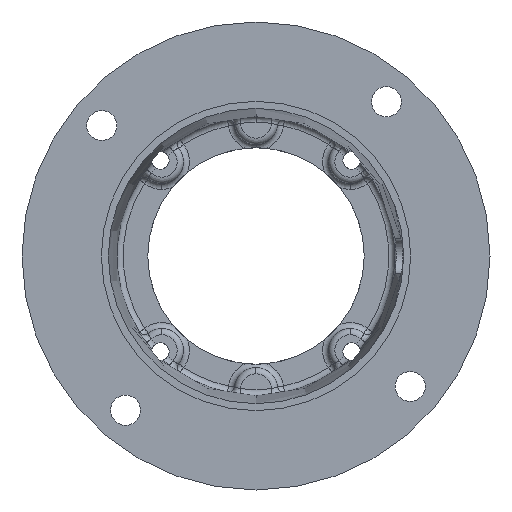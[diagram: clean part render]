
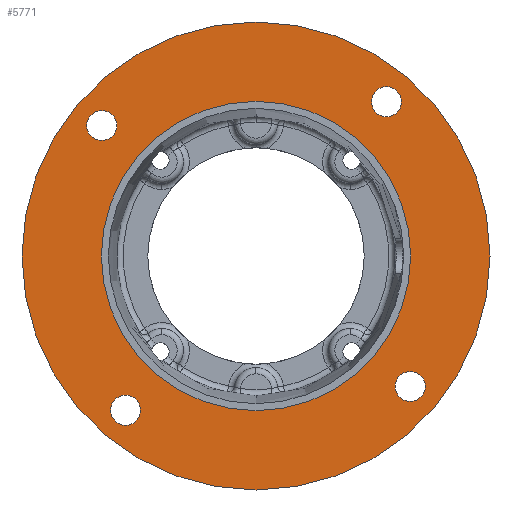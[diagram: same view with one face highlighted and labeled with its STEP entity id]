
A CAD part, front view. The second image highlights one B-rep face of the part: STEP entity #5771.
In plain terms, the highlighted planar face has unit normal (0, -1, 0).
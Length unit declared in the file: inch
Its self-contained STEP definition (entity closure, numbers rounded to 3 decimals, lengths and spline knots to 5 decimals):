
#14 = EDGE_LOOP ( 'NONE', ( #4089, #3231 ) ) ;
#47 = DIRECTION ( 'NONE',  ( 0., -1., 0. ) ) ;
#120 = DIRECTION ( 'NONE',  ( 0., -1., 0. ) ) ;
#131 = CARTESIAN_POINT ( 'NONE',  ( 0., 0.104, 3.405 ) ) ;
#134 = DIRECTION ( 'NONE',  ( 0., 0., -1. ) ) ;
#292 = ORIENTED_EDGE ( 'NONE', *, *, #896, .F. ) ;
#309 = CIRCLE ( 'NONE', #3925, 2.2505 ) ;
#483 = CARTESIAN_POINT ( 'NONE',  ( 0., 0.104, 0. ) ) ;
#503 = CARTESIAN_POINT ( 'NONE',  ( -2.24475, 0.104, 1.67986 ) ) ;
#580 = ORIENTED_EDGE ( 'NONE', *, *, #3121, .F. ) ;
#581 = VERTEX_POINT ( 'NONE', #5534 ) ;
#669 = EDGE_CURVE ( 'NONE', #820, #8010, #7409, .T. ) ;
#807 = CARTESIAN_POINT ( 'NONE',  ( 2.24475, 0.104, -1.89861 ) ) ;
#820 = VERTEX_POINT ( 'NONE', #1160 ) ;
#885 = AXIS2_PLACEMENT_3D ( 'NONE', #3784, #47, #4411 ) ;
#896 = EDGE_CURVE ( 'NONE', #4029, #7605, #5898, .T. ) ;
#904 = EDGE_LOOP ( 'NONE', ( #3573, #4079 ) ) ;
#924 = DIRECTION ( 'NONE',  ( 0., -1., 0. ) ) ;
#965 = DIRECTION ( 'NONE',  ( 0., -1., 0. ) ) ;
#1043 = FACE_BOUND ( 'NONE', #14, .T. ) ;
#1111 = DIRECTION ( 'NONE',  ( 0., 0., -1. ) ) ;
#1160 = CARTESIAN_POINT ( 'NONE',  ( 1.89861, 0.104, 2.026 ) ) ;
#1226 = CARTESIAN_POINT ( 'NONE',  ( 0., 0.104, 2.2505 ) ) ;
#1346 = CARTESIAN_POINT ( 'NONE',  ( -2.24475, 0.104, 1.89861 ) ) ;
#1378 = EDGE_LOOP ( 'NONE', ( #3052, #292 ) ) ;
#1427 = DIRECTION ( 'NONE',  ( 0., 0., -1. ) ) ;
#1503 = CARTESIAN_POINT ( 'NONE',  ( 1.89861, 0.104, 2.4635 ) ) ;
#1568 = DIRECTION ( 'NONE',  ( 0., -1., 0. ) ) ;
#1937 = EDGE_CURVE ( 'NONE', #8010, #820, #7156, .T. ) ;
#1973 = DIRECTION ( 'NONE',  ( 0., 0., -1. ) ) ;
#2256 = CARTESIAN_POINT ( 'NONE',  ( -2.24475, 0.104, 2.11736 ) ) ;
#2306 = CARTESIAN_POINT ( 'NONE',  ( 0., 0.104, 0. ) ) ;
#2434 = CIRCLE ( 'NONE', #4602, 0.21875 ) ;
#2475 = CARTESIAN_POINT ( 'NONE',  ( -1.89861, 0.104, -2.026 ) ) ;
#2671 = FACE_BOUND ( 'NONE', #3233, .T. ) ;
#2678 = CARTESIAN_POINT ( 'NONE',  ( 2.24475, 0.104, -1.89861 ) ) ;
#2747 = VERTEX_POINT ( 'NONE', #503 ) ;
#2770 = CARTESIAN_POINT ( 'NONE',  ( 0., 0.104, 0. ) ) ;
#2890 = CARTESIAN_POINT ( 'NONE',  ( 2.24475, 0.104, -2.11736 ) ) ;
#2952 = DIRECTION ( 'NONE',  ( 0., 0., -1. ) ) ;
#2983 = CARTESIAN_POINT ( 'NONE',  ( 0., 0.104, 0. ) ) ;
#3023 = EDGE_CURVE ( 'NONE', #581, #6712, #4610, .T. ) ;
#3052 = ORIENTED_EDGE ( 'NONE', *, *, #5882, .F. ) ;
#3121 = EDGE_CURVE ( 'NONE', #7922, #7731, #4422, .T. ) ;
#3198 = CARTESIAN_POINT ( 'NONE',  ( -1.89861, 0.104, -2.24475 ) ) ;
#3231 = ORIENTED_EDGE ( 'NONE', *, *, #1937, .F. ) ;
#3233 = EDGE_LOOP ( 'NONE', ( #6680, #7739 ) ) ;
#3320 = DIRECTION ( 'NONE',  ( 0., 0., -1. ) ) ;
#3440 = EDGE_CURVE ( 'NONE', #2747, #5058, #4698, .T. ) ;
#3518 = AXIS2_PLACEMENT_3D ( 'NONE', #3198, #7552, #3840 ) ;
#3573 = ORIENTED_EDGE ( 'NONE', *, *, #3904, .T. ) ;
#3602 = DIRECTION ( 'NONE',  ( 0., 0., -1. ) ) ;
#3607 = AXIS2_PLACEMENT_3D ( 'NONE', #2983, #7330, #3602 ) ;
#3701 = CARTESIAN_POINT ( 'NONE',  ( 0., 0.104, -3.405 ) ) ;
#3784 = CARTESIAN_POINT ( 'NONE',  ( 0., 0.104, 0. ) ) ;
#3840 = DIRECTION ( 'NONE',  ( 0., 0., -1. ) ) ;
#3857 = CARTESIAN_POINT ( 'NONE',  ( -1.89861, 0.104, -2.24475 ) ) ;
#3876 = DIRECTION ( 'NONE',  ( 0., -1., 0. ) ) ;
#3894 = CIRCLE ( 'NONE', #3518, 0.21875 ) ;
#3904 = EDGE_CURVE ( 'NONE', #4490, #6161, #6028, .T. ) ;
#3925 = AXIS2_PLACEMENT_3D ( 'NONE', #2306, #6676, #2952 ) ;
#4029 = VERTEX_POINT ( 'NONE', #1226 ) ;
#4079 = ORIENTED_EDGE ( 'NONE', *, *, #5288, .T. ) ;
#4089 = ORIENTED_EDGE ( 'NONE', *, *, #669, .F. ) ;
#4097 = EDGE_CURVE ( 'NONE', #5058, #2747, #5046, .T. ) ;
#4163 = FACE_OUTER_BOUND ( 'NONE', #904, .T. ) ;
#4179 = AXIS2_PLACEMENT_3D ( 'NONE', #5302, #1568, #5923 ) ;
#4229 = EDGE_LOOP ( 'NONE', ( #580, #7659 ) ) ;
#4411 = DIRECTION ( 'NONE',  ( 0., 0., -1. ) ) ;
#4422 = CIRCLE ( 'NONE', #6943, 0.21875 ) ;
#4471 = DIRECTION ( 'NONE',  ( 0., 0., -1. ) ) ;
#4490 = VERTEX_POINT ( 'NONE', #3701 ) ;
#4602 = AXIS2_PLACEMENT_3D ( 'NONE', #807, #5162, #1427 ) ;
#4610 = CIRCLE ( 'NONE', #4864, 0.21875 ) ;
#4658 = AXIS2_PLACEMENT_3D ( 'NONE', #1346, #5706, #1973 ) ;
#4698 = CIRCLE ( 'NONE', #6798, 0.21875 ) ;
#4700 = CARTESIAN_POINT ( 'NONE',  ( 1.89861, 0.104, 2.24475 ) ) ;
#4842 = DIRECTION ( 'NONE',  ( 0., -1., 0. ) ) ;
#4844 = CIRCLE ( 'NONE', #885, 3.405 ) ;
#4864 = AXIS2_PLACEMENT_3D ( 'NONE', #2678, #7045, #3320 ) ;
#5046 = CIRCLE ( 'NONE', #4658, 0.21875 ) ;
#5058 = VERTEX_POINT ( 'NONE', #2256 ) ;
#5162 = DIRECTION ( 'NONE',  ( 0., -1., 0. ) ) ;
#5255 = PLANE ( 'NONE',  #7837 ) ;
#5286 = DIRECTION ( 'NONE',  ( 0., 0., -1. ) ) ;
#5288 = EDGE_CURVE ( 'NONE', #6161, #4490, #4844, .T. ) ;
#5302 = CARTESIAN_POINT ( 'NONE',  ( 1.89861, 0.104, 2.24475 ) ) ;
#5323 = DIRECTION ( 'NONE',  ( 0., 0., -1. ) ) ;
#5534 = CARTESIAN_POINT ( 'NONE',  ( 2.24475, 0.104, -1.67986 ) ) ;
#5651 = AXIS2_PLACEMENT_3D ( 'NONE', #483, #4842, #1111 ) ;
#5706 = DIRECTION ( 'NONE',  ( 0., -1., 0. ) ) ;
#5771 = ADVANCED_FACE ( 'NONE', ( #1043, #6013, #2671, #7463, #5803, #4163 ), #5255, .T. ) ;
#5803 = FACE_BOUND ( 'NONE', #1378, .T. ) ;
#5870 = ORIENTED_EDGE ( 'NONE', *, *, #4097, .F. ) ;
#5882 = EDGE_CURVE ( 'NONE', #7605, #4029, #309, .T. ) ;
#5898 = CIRCLE ( 'NONE', #3607, 2.2505 ) ;
#5923 = DIRECTION ( 'NONE',  ( 0., 0., -1. ) ) ;
#6013 = FACE_BOUND ( 'NONE', #6245, .T. ) ;
#6017 = CARTESIAN_POINT ( 'NONE',  ( 0., 0.104, -2.2505 ) ) ;
#6028 = CIRCLE ( 'NONE', #5651, 3.405 ) ;
#6161 = VERTEX_POINT ( 'NONE', #131 ) ;
#6210 = EDGE_CURVE ( 'NONE', #6712, #581, #2434, .T. ) ;
#6245 = EDGE_LOOP ( 'NONE', ( #6561, #5870 ) ) ;
#6437 = CARTESIAN_POINT ( 'NONE',  ( -1.89861, 0.104, -2.4635 ) ) ;
#6561 = ORIENTED_EDGE ( 'NONE', *, *, #3440, .F. ) ;
#6676 = DIRECTION ( 'NONE',  ( 0., -1., 0. ) ) ;
#6680 = ORIENTED_EDGE ( 'NONE', *, *, #6210, .F. ) ;
#6712 = VERTEX_POINT ( 'NONE', #2890 ) ;
#6738 = AXIS2_PLACEMENT_3D ( 'NONE', #4700, #965, #5323 ) ;
#6798 = AXIS2_PLACEMENT_3D ( 'NONE', #7596, #3876, #134 ) ;
#6943 = AXIS2_PLACEMENT_3D ( 'NONE', #3857, #120, #4471 ) ;
#7045 = DIRECTION ( 'NONE',  ( 0., -1., 0. ) ) ;
#7156 = CIRCLE ( 'NONE', #6738, 0.21875 ) ;
#7330 = DIRECTION ( 'NONE',  ( 0., -1., 0. ) ) ;
#7409 = CIRCLE ( 'NONE', #4179, 0.21875 ) ;
#7463 = FACE_BOUND ( 'NONE', #4229, .T. ) ;
#7552 = DIRECTION ( 'NONE',  ( 0., -1., 0. ) ) ;
#7596 = CARTESIAN_POINT ( 'NONE',  ( -2.24475, 0.104, 1.89861 ) ) ;
#7605 = VERTEX_POINT ( 'NONE', #6017 ) ;
#7659 = ORIENTED_EDGE ( 'NONE', *, *, #7826, .F. ) ;
#7731 = VERTEX_POINT ( 'NONE', #2475 ) ;
#7739 = ORIENTED_EDGE ( 'NONE', *, *, #3023, .F. ) ;
#7826 = EDGE_CURVE ( 'NONE', #7731, #7922, #3894, .T. ) ;
#7837 = AXIS2_PLACEMENT_3D ( 'NONE', #2770, #924, #5286 ) ;
#7922 = VERTEX_POINT ( 'NONE', #6437 ) ;
#8010 = VERTEX_POINT ( 'NONE', #1503 ) ;
